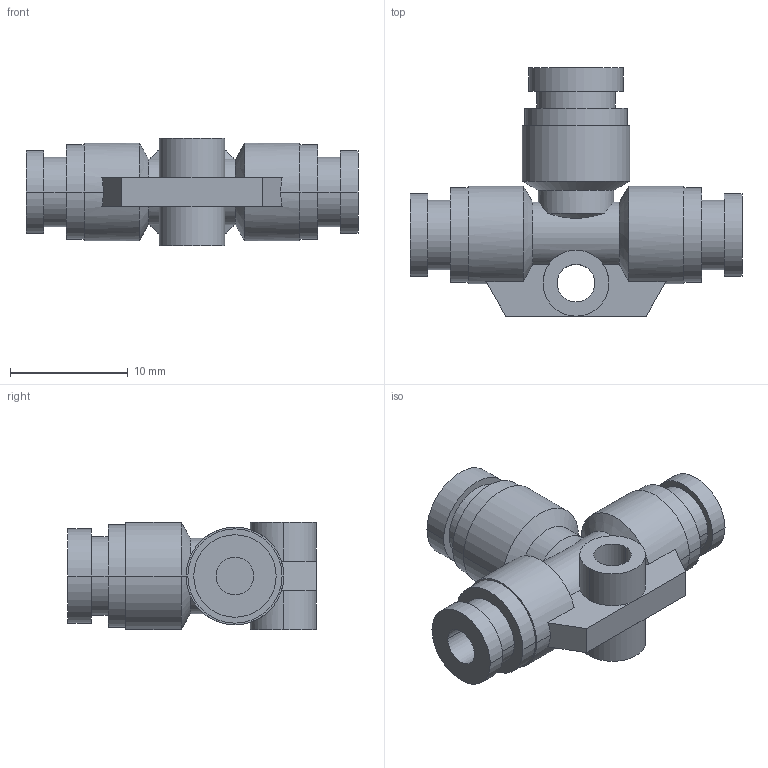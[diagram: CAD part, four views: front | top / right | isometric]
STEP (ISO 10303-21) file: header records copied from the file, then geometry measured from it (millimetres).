
FILE_DESCRIPTION( ( '' ), '1' );
FILE_NAME( 'G:/SMC狟婥/KQ2T23-04A.stp', '2023-03-07T03:26:26', ( '' ), ( '' ), ' ', ' ', ' ' );
FILE_SCHEMA( ( 'CONFIG_CONTROL_DESIGN' ) );
Length unit declared in the file: millimetre
Products named in the file (1): 1
Bounding box: 28.2 x 21.1 x 9.1 mm (x, y, z)
Volume: 1608.2 mm3; surface area: 1889.5 mm2
Topology: 1 solids, 1 shells, 72 faces, 162 edges, 104 vertices
Faces by surface type: cylinder 40, plane 24, cone 8
Entity records: 2243 total; most frequent: CARTESIAN_POINT 524, DIRECTION 384, ORIENTED_EDGE 324, EDGE_CURVE 162, AXIS2_PLACEMENT_3D 161, VERTEX_POINT 104, EDGE_LOOP 86, CIRCLE 84
